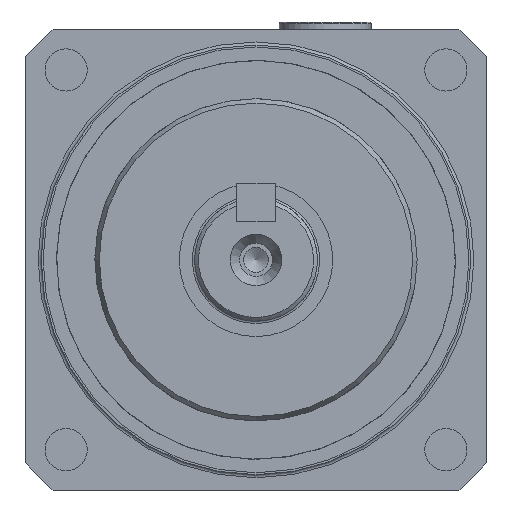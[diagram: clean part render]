
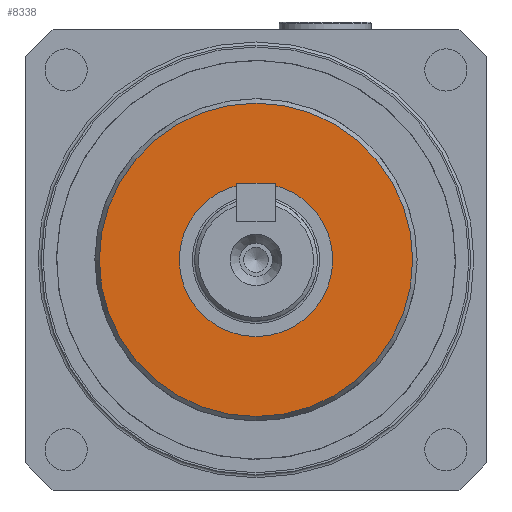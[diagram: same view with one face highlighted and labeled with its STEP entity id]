
A CAD part, left-side view. The second image highlights one B-rep face of the part: STEP entity #8338.
In plain terms, the highlighted planar face has unit normal (-1, 0, 0).
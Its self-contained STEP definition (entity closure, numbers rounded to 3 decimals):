
#762=FACE_BOUND('',#2283,.T.);
#1586=PLANE('',#9362);
#1780=FACE_OUTER_BOUND('',#2282,.T.);
#2282=EDGE_LOOP('',(#6195));
#2283=EDGE_LOOP('',(#6196,#6197));
#2903=CIRCLE('',#9358,20.423);
#2906=CIRCLE('',#9363,10.);
#2907=CIRCLE('',#9364,10.);
#3766=VERTEX_POINT('',#13736);
#3769=VERTEX_POINT('',#13746);
#3770=VERTEX_POINT('',#13747);
#4783=EDGE_CURVE('',#3766,#3766,#2903,.T.);
#4787=EDGE_CURVE('',#3769,#3770,#2906,.T.);
#4788=EDGE_CURVE('',#3770,#3769,#2907,.T.);
#6195=ORIENTED_EDGE('',*,*,#4783,.F.);
#6196=ORIENTED_EDGE('',*,*,#4787,.T.);
#6197=ORIENTED_EDGE('',*,*,#4788,.T.);
#8338=ADVANCED_FACE('',(#1780,#762),#1586,.T.);
#9358=AXIS2_PLACEMENT_3D('',#13738,#10840,#10841);
#9362=AXIS2_PLACEMENT_3D('',#13745,#10849,#10850);
#9363=AXIS2_PLACEMENT_3D('',#13748,#10851,#10852);
#9364=AXIS2_PLACEMENT_3D('',#13749,#10853,#10854);
#10840=DIRECTION('center_axis',(1.,0.,0.));
#10841=DIRECTION('ref_axis',(0.,-1.,0.));
#10849=DIRECTION('center_axis',(-1.,0.,0.));
#10850=DIRECTION('ref_axis',(0.,0.,1.));
#10851=DIRECTION('center_axis',(1.,0.,0.));
#10852=DIRECTION('ref_axis',(0.,0.,-1.));
#10853=DIRECTION('center_axis',(1.,0.,0.));
#10854=DIRECTION('ref_axis',(0.,0.,-1.));
#13736=CARTESIAN_POINT('',(0.,20.423,0.));
#13738=CARTESIAN_POINT('Origin',(0.,0.,0.));
#13745=CARTESIAN_POINT('Origin',(0.,21.,0.));
#13746=CARTESIAN_POINT('',(0.,10.,0.));
#13747=CARTESIAN_POINT('',(0.,-10.,0.));
#13748=CARTESIAN_POINT('Origin',(0.,0.,0.));
#13749=CARTESIAN_POINT('Origin',(0.,0.,0.));
